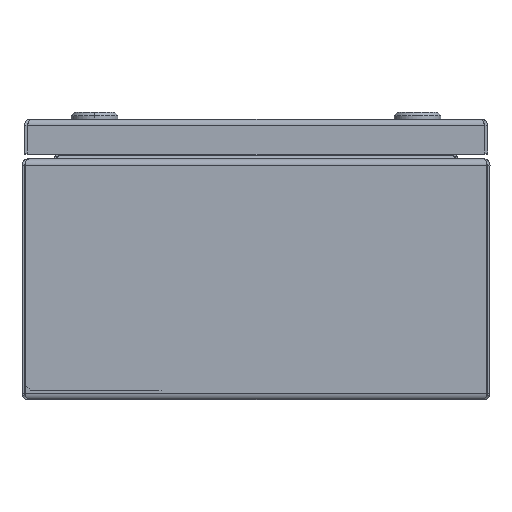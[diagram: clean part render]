
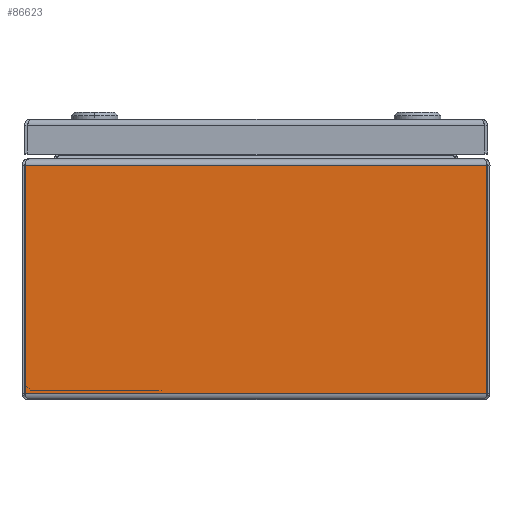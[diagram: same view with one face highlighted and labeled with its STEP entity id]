
A CAD part, left-side view. The second image highlights one B-rep face of the part: STEP entity #86623.
In plain terms, the highlighted planar face has unit normal (-1, 0, 0).
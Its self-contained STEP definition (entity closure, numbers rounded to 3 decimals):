
#7429 = CARTESIAN_POINT ( 'NONE',  ( -150., -98.623, 2.7 ) ) ;
#8416 = CARTESIAN_POINT ( 'NONE',  ( -150., 98.623, 100.3 ) ) ;
#20819 = VECTOR ( 'NONE', #102761, 1000. ) ;
#22146 = VERTEX_POINT ( 'NONE', #91846 ) ;
#25635 = VERTEX_POINT ( 'NONE', #7429 ) ;
#28429 = VECTOR ( 'NONE', #90753, 1000. ) ;
#29468 = VECTOR ( 'NONE', #86826, 1000. ) ;
#32694 = LINE ( 'NONE', #48272, #20819 ) ;
#36997 = FACE_OUTER_BOUND ( 'NONE', #98651, .T. ) ;
#39333 = ORIENTED_EDGE ( 'NONE', *, *, #53887, .T. ) ;
#45338 = VERTEX_POINT ( 'NONE', #67816 ) ;
#47762 = ORIENTED_EDGE ( 'NONE', *, *, #77663, .F. ) ;
#47906 = DIRECTION ( 'NONE',  ( 1., 0., 0. ) ) ;
#48001 = CARTESIAN_POINT ( 'NONE',  ( -150., -1600., 100.3 ) ) ;
#48006 = VERTEX_POINT ( 'NONE', #66036 ) ;
#48272 = CARTESIAN_POINT ( 'NONE',  ( -150., -98.623, 100.3 ) ) ;
#49325 = CARTESIAN_POINT ( 'NONE',  ( -150., -1600., 2.7 ) ) ;
#53887 = EDGE_CURVE ( 'NONE', #45338, #22146, #62537, .T. ) ;
#54126 = LINE ( 'NONE', #8416, #29468 ) ;
#56709 = PLANE ( 'NONE',  #91252 ) ;
#58598 = LINE ( 'NONE', #49325, #28429 ) ;
#62537 = LINE ( 'NONE', #48001, #89086 ) ;
#63489 = CARTESIAN_POINT ( 'NONE',  ( -150., -1600., 100.3 ) ) ;
#64560 = DIRECTION ( 'NONE',  ( 0., 1., 0. ) ) ;
#66036 = CARTESIAN_POINT ( 'NONE',  ( -150., 98.623, 2.7 ) ) ;
#67816 = CARTESIAN_POINT ( 'NONE',  ( -150., -98.623, 100.3 ) ) ;
#72805 = DIRECTION ( 'NONE',  ( 0., 0., -1. ) ) ;
#77663 = EDGE_CURVE ( 'NONE', #45338, #25635, #32694, .T. ) ;
#78825 = ORIENTED_EDGE ( 'NONE', *, *, #86975, .F. ) ;
#83686 = EDGE_CURVE ( 'NONE', #48006, #22146, #54126, .T. ) ;
#86623 = ADVANCED_FACE ( 'NONE', ( #36997 ), #56709, .F. ) ;
#86826 = DIRECTION ( 'NONE',  ( 0., 0., 1. ) ) ;
#86975 = EDGE_CURVE ( 'NONE', #25635, #48006, #58598, .T. ) ;
#89086 = VECTOR ( 'NONE', #64560, 1000. ) ;
#89939 = ORIENTED_EDGE ( 'NONE', *, *, #83686, .F. ) ;
#90753 = DIRECTION ( 'NONE',  ( 0., 1., 0. ) ) ;
#91252 = AXIS2_PLACEMENT_3D ( 'NONE', #63489, #47906, #72805 ) ;
#91846 = CARTESIAN_POINT ( 'NONE',  ( -150., 98.623, 100.3 ) ) ;
#98651 = EDGE_LOOP ( 'NONE', ( #89939, #78825, #47762, #39333 ) ) ;
#102761 = DIRECTION ( 'NONE',  ( 0., 0., -1. ) ) ;
